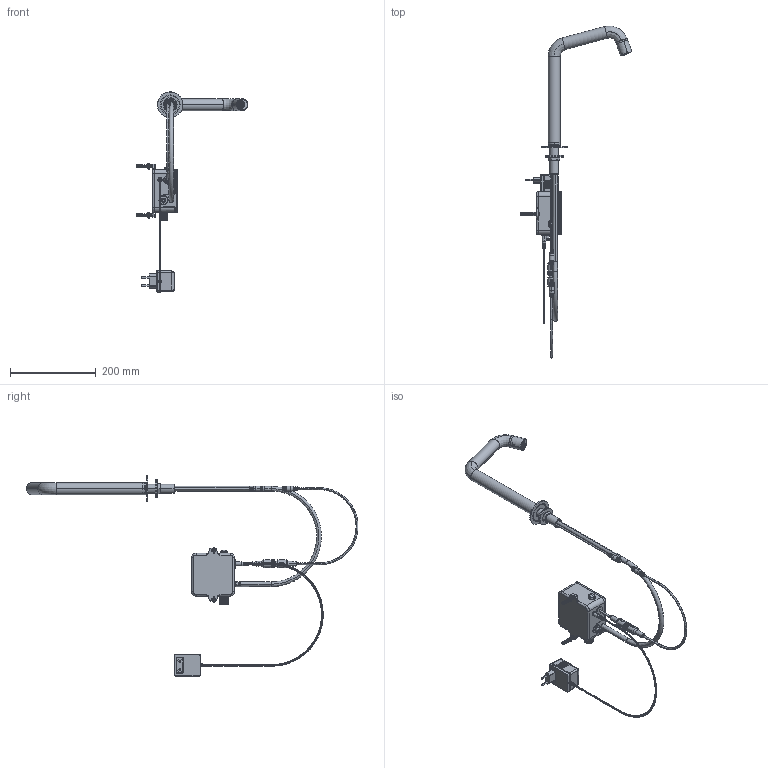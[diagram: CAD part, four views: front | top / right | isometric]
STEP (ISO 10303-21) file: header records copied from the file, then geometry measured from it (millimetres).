
FILE_DESCRIPTION (( 'STEP AP203' ), '1' );
FILE_NAME ('AKE2.STEP', '2023-01-23T07:38:13', ( '' ), ( '' ), 'SwSTEP 2.0', 'SolidWorks 2021', '' );
FILE_SCHEMA (( 'CONFIG_CONTROL_DESIGN' ));
Length unit declared in the file: metre
Products named in the file (1): AKE2
Bounding box: 261.25 x 775.45 x 467.85 mm (x, y, z)
Volume: 904333.4 mm3; surface area: 267827.5 mm2
Topology: 20 solids, 20 shells, 5032 faces, 13937 edges, 9155 vertices
Faces by surface type: plane 3418, cylinder 1085, bspline 216, cone 179, torus 120, sphere 14
Entity records: 197928 total; most frequent: CARTESIAN_POINT 82889, ORIENTED_EDGE 27792, DIRECTION 20390, EDGE_CURVE 13896, VERTEX_POINT 9141, AXIS2_PLACEMENT_3D 7501, VECTOR 5388, LINE 5388
